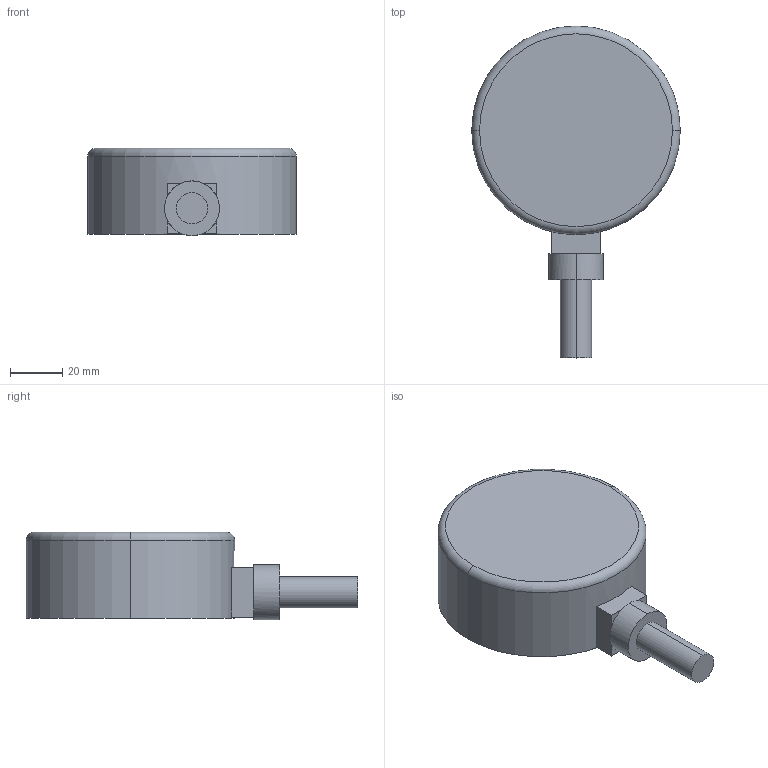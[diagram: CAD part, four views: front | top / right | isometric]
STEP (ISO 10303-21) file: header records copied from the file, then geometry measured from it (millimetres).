
FILE_DESCRIPTION (( 'STEP AP214' ), '1' );
FILE_NAME ('Termometr_bimetaliczny_x_0_3D_AFRISO.STEP', '2022-12-19T09:48:26', ( '' ), ( '' ), 'SwSTEP 2.0', 'SolidWorks 2022', '' );
FILE_SCHEMA (( 'AUTOMOTIVE_DESIGN' ));
Length unit declared in the file: millimetre
Products named in the file (1): Termometr_bimetaliczny_x_0_3D_AFRISO
Bounding box: 80 x 127.3 x 33.5 mm (x, y, z)
Volume: 175027.6 mm3; surface area: 20467.4 mm2
Topology: 1 solids, 1 shells, 24 faces, 50 edges, 30 vertices
Faces by surface type: plane 16, cylinder 6, torus 2
Entity records: 674 total; most frequent: DIRECTION 126, CARTESIAN_POINT 105, ORIENTED_EDGE 100, AXIS2_PLACEMENT_3D 51, EDGE_CURVE 50, VERTEX_POINT 30, CIRCLE 26, EDGE_LOOP 26
